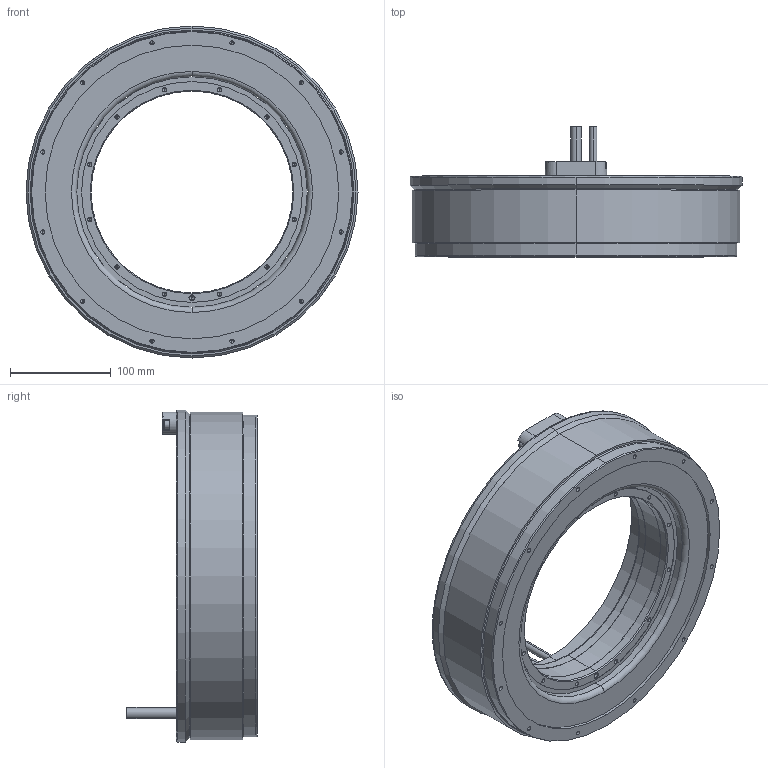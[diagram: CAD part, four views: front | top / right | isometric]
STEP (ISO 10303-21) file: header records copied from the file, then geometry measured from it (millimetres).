
FILE_DESCRIPTION (( 'STEP AP203' ), '1' );
FILE_NAME ('TM-2-74-LB0(J0).STEP', '2023-06-06T01:33:15', ( '' ), ( '' ), 'SwSTEP 2.0', 'SolidWorks 2015', '' );
FILE_SCHEMA (( 'CONFIG_CONTROL_DESIGN' ));
Length unit declared in the file: millimetre
Products named in the file (3): TM-2-74-LB0(J0)_Stator; TM-2-74(J0)_Rotor; TM-2-74-LB0(J0)
Assembly tree (2 placements, depth 2):
  TM-2-74-LB0(J0)
    TM-2-74-LB0(J0)_Stator
    TM-2-74(J0)_Rotor
Bounding box: 329 x 129 x 329 mm (x, y, z)
Volume: 3603813.5 mm3; surface area: 315159.5 mm2
Topology: 2 solids, 2 shells, 330 faces, 794 edges, 431 vertices
Faces by surface type: cylinder 154, cone 126, plane 44, torus 6
Entity records: 9127 total; most frequent: DIRECTION 1704, CARTESIAN_POINT 1454, ORIENTED_EDGE 1376, EDGE_CURVE 688, AXIS2_PLACEMENT_3D 681, VERTEX_POINT 431, EDGE_LOOP 403, CIRCLE 346
